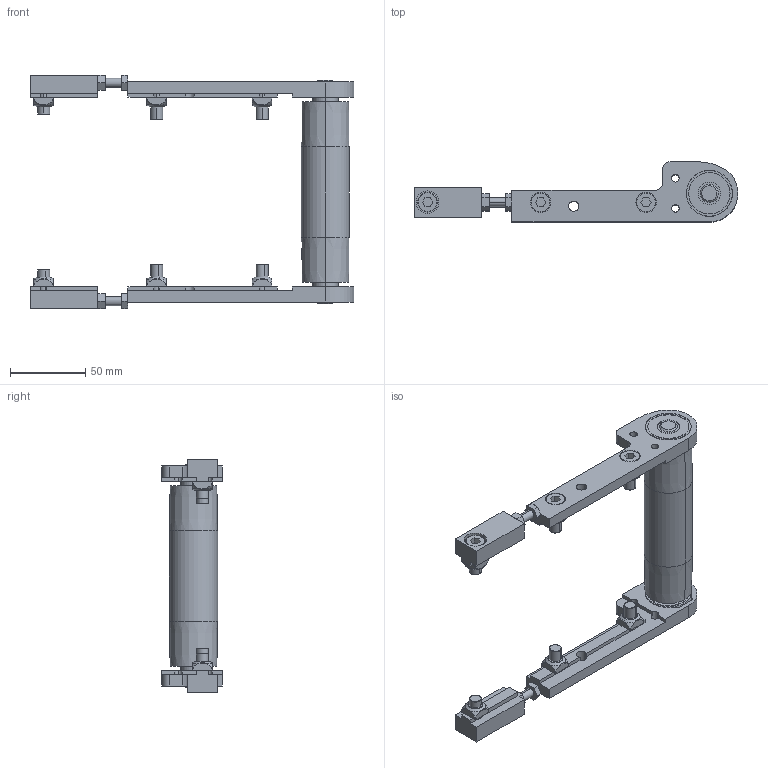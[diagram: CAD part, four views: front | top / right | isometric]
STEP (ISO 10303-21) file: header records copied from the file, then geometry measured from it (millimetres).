
FILE_DESCRIPTION (( 'STEP AP203' ), '1' );
FILE_NAME ('084.030.KIS.100.STEP', '2019-07-29T09:49:21', ( '' ), ( '' ), 'SwSTEP 2.0', 'SolidWorks 2018', '' );
FILE_SCHEMA (( 'CONFIG_CONTROL_DESIGN' ));
Length unit declared in the file: millimetre
Products named in the file (8): 084.302.000 DADI ALUSIC 13x13-1_084.302.004; 084.801.027 dx; 084.801.027 sx; 084.030.KIS.100; 084.301.000 VITI ALUSIC_084.301.003; 084.802.008; 62012RSBOMB_62012RSBOMB; 084.030.179
Assembly tree (19 placements, depth 2):
  084.030.KIS.100
    084.030.179
    084.802.008  x2
    084.801.027 dx
    084.801.027 sx
    62012RSBOMB_62012RSBOMB  x2
    084.302.000 DADI ALUSIC 13x13-1_084.302.004  x6
    084.301.000 VITI ALUSIC_084.301.003  x6
Bounding box: 215 x 40 x 155 mm (x, y, z)
Volume: 196596.5 mm3; surface area: 64486.3 mm2
Topology: 23 solids, 23 shells, 528 faces, 1356 edges, 884 vertices
Faces by surface type: plane 240, cylinder 164, torus 48, cone 44, bspline 24, sphere 8
Entity records: 9596 total; most frequent: CARTESIAN_POINT 1874, DIRECTION 1440, ORIENTED_EDGE 1340, EDGE_CURVE 670, AXIS2_PLACEMENT_3D 545, VERTEX_POINT 441, VECTOR 350, LINE 350
